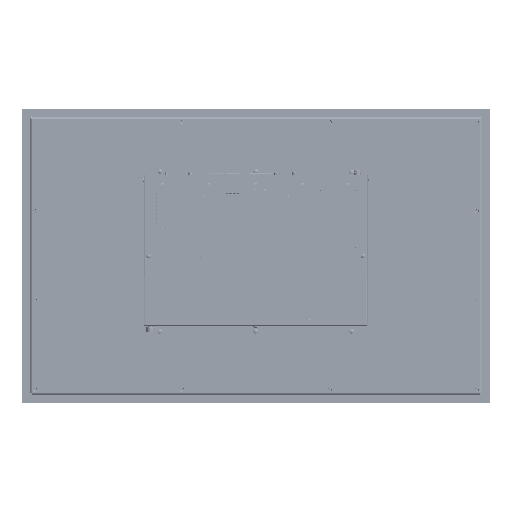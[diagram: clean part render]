
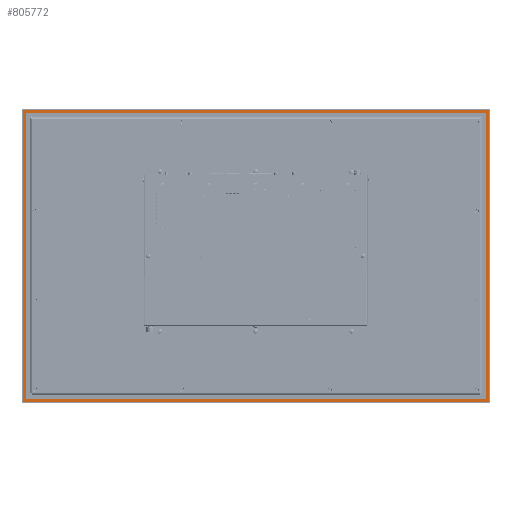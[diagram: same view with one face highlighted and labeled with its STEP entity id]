
A CAD part, front view. The second image highlights one B-rep face of the part: STEP entity #805772.
In plain terms, the highlighted planar face has unit normal (0, -1, 0).
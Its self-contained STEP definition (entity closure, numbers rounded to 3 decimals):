
#66 = CARTESIAN_POINT ( 'NONE',  ( -316.75, 0., 199.75 ) ) ;
#2347 = ORIENTED_EDGE ( 'NONE', *, *, #119734, .F. ) ;
#3987 = AXIS2_PLACEMENT_3D ( 'NONE', #813420, #104248, #354128 ) ;
#15713 = VERTEX_POINT ( 'NONE', #743323 ) ;
#17886 = EDGE_LOOP ( 'NONE', ( #595471, #242236, #709963, #448297, #118436, #104873, #100724, #455694 ) ) ;
#21588 = CARTESIAN_POINT ( 'NONE',  ( 0., 0., 0. ) ) ;
#30492 = DIRECTION ( 'NONE',  ( 0., 0., 1. ) ) ;
#31069 = CARTESIAN_POINT ( 'NONE',  ( 312.75, 0., 194. ) ) ;
#39171 = DIRECTION ( 'NONE',  ( 0., 0., -1. ) ) ;
#49731 = ORIENTED_EDGE ( 'NONE', *, *, #113207, .F. ) ;
#51804 = VERTEX_POINT ( 'NONE', #408430 ) ;
#54128 = DIRECTION ( 'NONE',  ( 0., 0., -1. ) ) ;
#63317 = CIRCLE ( 'NONE', #348151, 1.25 ) ;
#72293 = VERTEX_POINT ( 'NONE', #154937 ) ;
#86224 = CARTESIAN_POINT ( 'NONE',  ( 316.75, 0., -198. ) ) ;
#88980 = VERTEX_POINT ( 'NONE', #181464 ) ;
#89898 = LINE ( 'NONE', #312830, #272952 ) ;
#97154 = VERTEX_POINT ( 'NONE', #565433 ) ;
#100724 = ORIENTED_EDGE ( 'NONE', *, *, #586167, .F. ) ;
#102869 = DIRECTION ( 'NONE',  ( 1., 0., 0. ) ) ;
#103430 = VERTEX_POINT ( 'NONE', #113820 ) ;
#104248 = DIRECTION ( 'NONE',  ( 0., 1., 0. ) ) ;
#104873 = ORIENTED_EDGE ( 'NONE', *, *, #154651, .F. ) ;
#113207 = EDGE_CURVE ( 'NONE', #704613, #368117, #186910, .T. ) ;
#113820 = CARTESIAN_POINT ( 'NONE',  ( -316.75, 0., -199.75 ) ) ;
#116257 = CARTESIAN_POINT ( 'NONE',  ( 316.75, 0., 199.75 ) ) ;
#117067 = DIRECTION ( 'NONE',  ( -1., 0., 0. ) ) ;
#118436 = ORIENTED_EDGE ( 'NONE', *, *, #762971, .F. ) ;
#119734 = EDGE_CURVE ( 'NONE', #72293, #103430, #367450, .T. ) ;
#123926 = EDGE_CURVE ( 'NONE', #344308, #275669, #764888, .T. ) ;
#141392 = VERTEX_POINT ( 'NONE', #282073 ) ;
#142207 = LINE ( 'NONE', #628993, #151968 ) ;
#151968 = VECTOR ( 'NONE', #39171, 1000. ) ;
#154651 = EDGE_CURVE ( 'NONE', #97154, #458962, #567000, .T. ) ;
#154937 = CARTESIAN_POINT ( 'NONE',  ( 316.75, 0., -199.75 ) ) ;
#157587 = DIRECTION ( 'NONE',  ( 1., 0., 0. ) ) ;
#160215 = CIRCLE ( 'NONE', #209508, 1.75 ) ;
#174563 = EDGE_CURVE ( 'NONE', #141392, #51804, #465373, .T. ) ;
#181464 = CARTESIAN_POINT ( 'NONE',  ( 318.5, 0., -198. ) ) ;
#184387 = DIRECTION ( 'NONE',  ( 1., 0., 0. ) ) ;
#186910 = CIRCLE ( 'NONE', #3987, 1.75 ) ;
#188606 = CIRCLE ( 'NONE', #452669, 1.25 ) ;
#188688 = ORIENTED_EDGE ( 'NONE', *, *, #284153, .F. ) ;
#209418 = CARTESIAN_POINT ( 'NONE',  ( -312.75, 0., -194. ) ) ;
#209508 = AXIS2_PLACEMENT_3D ( 'NONE', #783567, #647526, #655962 ) ;
#217809 = DIRECTION ( 'NONE',  ( 0., -1., 0. ) ) ;
#222154 = AXIS2_PLACEMENT_3D ( 'NONE', #635966, #771932, #831443 ) ;
#227606 = EDGE_CURVE ( 'NONE', #702795, #141392, #89898, .T. ) ;
#232363 = CARTESIAN_POINT ( 'NONE',  ( -318.5, 0., 198. ) ) ;
#242236 = ORIENTED_EDGE ( 'NONE', *, *, #278801, .F. ) ;
#243792 = DIRECTION ( 'NONE',  ( 0., 1., 0. ) ) ;
#245486 = LINE ( 'NONE', #670254, #529452 ) ;
#250817 = EDGE_CURVE ( 'NONE', #628483, #665793, #369244, .T. ) ;
#263278 = ORIENTED_EDGE ( 'NONE', *, *, #123926, .F. ) ;
#267575 = DIRECTION ( 'NONE',  ( 0., 0., 1. ) ) ;
#272952 = VECTOR ( 'NONE', #117067, 1000. ) ;
#275669 = VERTEX_POINT ( 'NONE', #232363 ) ;
#276954 = VERTEX_POINT ( 'NONE', #438790 ) ;
#278801 = EDGE_CURVE ( 'NONE', #51804, #276954, #142207, .T. ) ;
#279351 = CARTESIAN_POINT ( 'NONE',  ( -318.5, 0., -198. ) ) ;
#282073 = CARTESIAN_POINT ( 'NONE',  ( -312.75, 0., 195.25 ) ) ;
#284153 = EDGE_CURVE ( 'NONE', #15713, #704613, #695199, .T. ) ;
#287430 = DIRECTION ( 'NONE',  ( 0., 1., 0. ) ) ;
#305044 = ORIENTED_EDGE ( 'NONE', *, *, #326021, .F. ) ;
#312830 = CARTESIAN_POINT ( 'NONE',  ( 312.75, 0., 195.25 ) ) ;
#326021 = EDGE_CURVE ( 'NONE', #275669, #15713, #160215, .T. ) ;
#336629 = AXIS2_PLACEMENT_3D ( 'NONE', #21588, #673999, #157587 ) ;
#338514 = CARTESIAN_POINT ( 'NONE',  ( 314., 0., -194. ) ) ;
#340961 = CIRCLE ( 'NONE', #547774, 1.75 ) ;
#344308 = VERTEX_POINT ( 'NONE', #279351 ) ;
#347142 = VECTOR ( 'NONE', #432068, 1000. ) ;
#348151 = AXIS2_PLACEMENT_3D ( 'NONE', #209418, #217809, #535480 ) ;
#354128 = DIRECTION ( 'NONE',  ( 0., 0., 1. ) ) ;
#364094 = CARTESIAN_POINT ( 'NONE',  ( 316.75, 0., -199.75 ) ) ;
#367450 = LINE ( 'NONE', #364094, #347142 ) ;
#368117 = VERTEX_POINT ( 'NONE', #543327 ) ;
#369244 = LINE ( 'NONE', #371819, #450580 ) ;
#371819 = CARTESIAN_POINT ( 'NONE',  ( -312.75, 0., -195.25 ) ) ;
#408121 = EDGE_CURVE ( 'NONE', #276954, #628483, #63317, .T. ) ;
#408430 = CARTESIAN_POINT ( 'NONE',  ( -314., 0., 194. ) ) ;
#419620 = DIRECTION ( 'NONE',  ( 0., -1., 0. ) ) ;
#432068 = DIRECTION ( 'NONE',  ( -1., 0., 0. ) ) ;
#434185 = CARTESIAN_POINT ( 'NONE',  ( 312.75, 0., -194. ) ) ;
#435366 = CARTESIAN_POINT ( 'NONE',  ( 314., 0., 194. ) ) ;
#438790 = CARTESIAN_POINT ( 'NONE',  ( -314., 0., -194. ) ) ;
#444721 = AXIS2_PLACEMENT_3D ( 'NONE', #31069, #419620, #620901 ) ;
#448297 = ORIENTED_EDGE ( 'NONE', *, *, #227606, .F. ) ;
#450580 = VECTOR ( 'NONE', #184387, 1000. ) ;
#452669 = AXIS2_PLACEMENT_3D ( 'NONE', #434185, #763215, #54128 ) ;
#455694 = ORIENTED_EDGE ( 'NONE', *, *, #250817, .F. ) ;
#458962 = VERTEX_POINT ( 'NONE', #435366 ) ;
#465373 = CIRCLE ( 'NONE', #222154, 1.25 ) ;
#499053 = CARTESIAN_POINT ( 'NONE',  ( -316.75, 0., -198. ) ) ;
#529452 = VECTOR ( 'NONE', #681498, 1000. ) ;
#535480 = DIRECTION ( 'NONE',  ( -1., 0., 0. ) ) ;
#543327 = CARTESIAN_POINT ( 'NONE',  ( 318.5, 0., 198. ) ) ;
#547383 = EDGE_CURVE ( 'NONE', #88980, #72293, #340961, .T. ) ;
#547774 = AXIS2_PLACEMENT_3D ( 'NONE', #86224, #287430, #102869 ) ;
#561093 = ORIENTED_EDGE ( 'NONE', *, *, #547383, .F. ) ;
#565433 = CARTESIAN_POINT ( 'NONE',  ( 314., 0., -194. ) ) ;
#567000 = LINE ( 'NONE', #338514, #810431 ) ;
#576394 = FACE_OUTER_BOUND ( 'NONE', #794264, .T. ) ;
#586167 = EDGE_CURVE ( 'NONE', #665793, #97154, #188606, .T. ) ;
#592382 = VECTOR ( 'NONE', #30492, 1000. ) ;
#595471 = ORIENTED_EDGE ( 'NONE', *, *, #408121, .F. ) ;
#598837 = CARTESIAN_POINT ( 'NONE',  ( 312.75, 0., 195.25 ) ) ;
#604345 = CARTESIAN_POINT ( 'NONE',  ( 312.75, 0., -195.25 ) ) ;
#604432 = CARTESIAN_POINT ( 'NONE',  ( -312.75, 0., -195.25 ) ) ;
#617524 = CARTESIAN_POINT ( 'NONE',  ( -318.5, 0., -198. ) ) ;
#620901 = DIRECTION ( 'NONE',  ( 1., 0., 0. ) ) ;
#623935 = CIRCLE ( 'NONE', #444721, 1.25 ) ;
#628483 = VERTEX_POINT ( 'NONE', #604432 ) ;
#628993 = CARTESIAN_POINT ( 'NONE',  ( -314., 0., 194. ) ) ;
#635966 = CARTESIAN_POINT ( 'NONE',  ( -312.75, 0., 194. ) ) ;
#639339 = ORIENTED_EDGE ( 'NONE', *, *, #828184, .F. ) ;
#647526 = DIRECTION ( 'NONE',  ( 0., 1., 0. ) ) ;
#655962 = DIRECTION ( 'NONE',  ( -1., 0., 0. ) ) ;
#658068 = DIRECTION ( 'NONE',  ( 1., 0., 0. ) ) ;
#665793 = VERTEX_POINT ( 'NONE', #604345 ) ;
#670254 = CARTESIAN_POINT ( 'NONE',  ( 318.5, 0., 198. ) ) ;
#673999 = DIRECTION ( 'NONE',  ( 0., 1., 0. ) ) ;
#674851 = VECTOR ( 'NONE', #658068, 1000. ) ;
#681498 = DIRECTION ( 'NONE',  ( 0., 0., -1. ) ) ;
#695199 = LINE ( 'NONE', #66, #674851 ) ;
#697776 = DIRECTION ( 'NONE',  ( 0., 0., -1. ) ) ;
#702795 = VERTEX_POINT ( 'NONE', #598837 ) ;
#704613 = VERTEX_POINT ( 'NONE', #116257 ) ;
#706970 = AXIS2_PLACEMENT_3D ( 'NONE', #499053, #243792, #697776 ) ;
#709963 = ORIENTED_EDGE ( 'NONE', *, *, #174563, .F. ) ;
#715055 = CIRCLE ( 'NONE', #706970, 1.75 ) ;
#736522 = PLANE ( 'NONE',  #336629 ) ;
#743323 = CARTESIAN_POINT ( 'NONE',  ( -316.75, 0., 199.75 ) ) ;
#762971 = EDGE_CURVE ( 'NONE', #458962, #702795, #623935, .T. ) ;
#763215 = DIRECTION ( 'NONE',  ( 0., -1., 0. ) ) ;
#764888 = LINE ( 'NONE', #617524, #592382 ) ;
#771932 = DIRECTION ( 'NONE',  ( 0., -1., 0. ) ) ;
#779637 = EDGE_CURVE ( 'NONE', #368117, #88980, #245486, .T. ) ;
#783567 = CARTESIAN_POINT ( 'NONE',  ( -316.75, 0., 198. ) ) ;
#794264 = EDGE_LOOP ( 'NONE', ( #2347, #561093, #828498, #49731, #188688, #305044, #263278, #639339 ) ) ;
#805772 = ADVANCED_FACE ( 'NONE', ( #840859, #576394 ), #736522, .F. ) ;
#810431 = VECTOR ( 'NONE', #267575, 1000. ) ;
#813420 = CARTESIAN_POINT ( 'NONE',  ( 316.75, 0., 198. ) ) ;
#828184 = EDGE_CURVE ( 'NONE', #103430, #344308, #715055, .T. ) ;
#828498 = ORIENTED_EDGE ( 'NONE', *, *, #779637, .F. ) ;
#831443 = DIRECTION ( 'NONE',  ( 0., 0., 1. ) ) ;
#840859 = FACE_BOUND ( 'NONE', #17886, .T. ) ;
